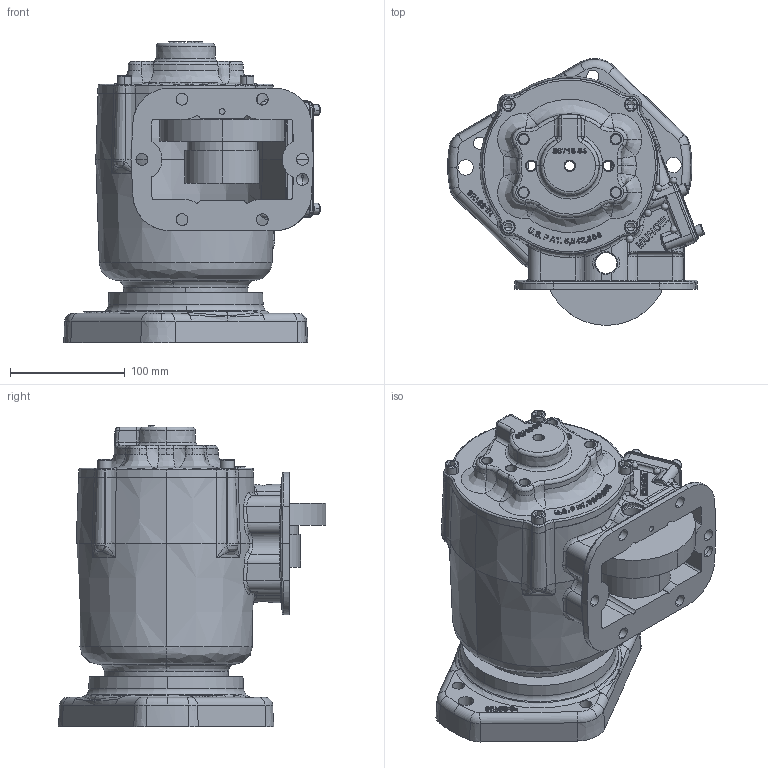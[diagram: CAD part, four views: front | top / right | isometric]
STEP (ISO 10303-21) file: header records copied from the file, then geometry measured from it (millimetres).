
FILE_DESCRIPTION (( 'STEP AP203' ), '1' );
FILE_NAME ('CS6S-XXXXX-X1EX.STEP', '2011-11-29T15:41:41', ( 'User' ), ( 'Muncie Power Products, Inc.' ), 'SwSTEP 2.0', 'SolidWorks 2011', '' );
FILE_SCHEMA (( 'CONFIG_CONTROL_DESIGN' ));
Products named in the file (3): CS6S-XXXXX-X1EX; 14T38719; CS6S-XXXXX-X16X
Assembly tree (2 placements, depth 2):
  CS6S-XXXXX-X1EX
    CS6S-XXXXX-X16X
    14T38719
Bounding box: 223.23 x 232.58 x 262.09 mm (x, y, z)
Volume: 493084.6 mm3; surface area: 442156.5 mm2
Topology: 1 solids, 13 shells, 2115 faces, 5618 edges, 3546 vertices
Faces by surface type: bspline 1021, plane 448, cylinder 421, cone 208, torus 17
Entity records: 158908 total; most frequent: CARTESIAN_POINT 114616, ORIENTED_EDGE 11022, DIRECTION 5866, EDGE_CURVE 5512, VERTEX_POINT 3546, B_SPLINE_CURVE_WITH_KNOTS 2562, EDGE_LOOP 2358, ADVANCED_FACE 2115
